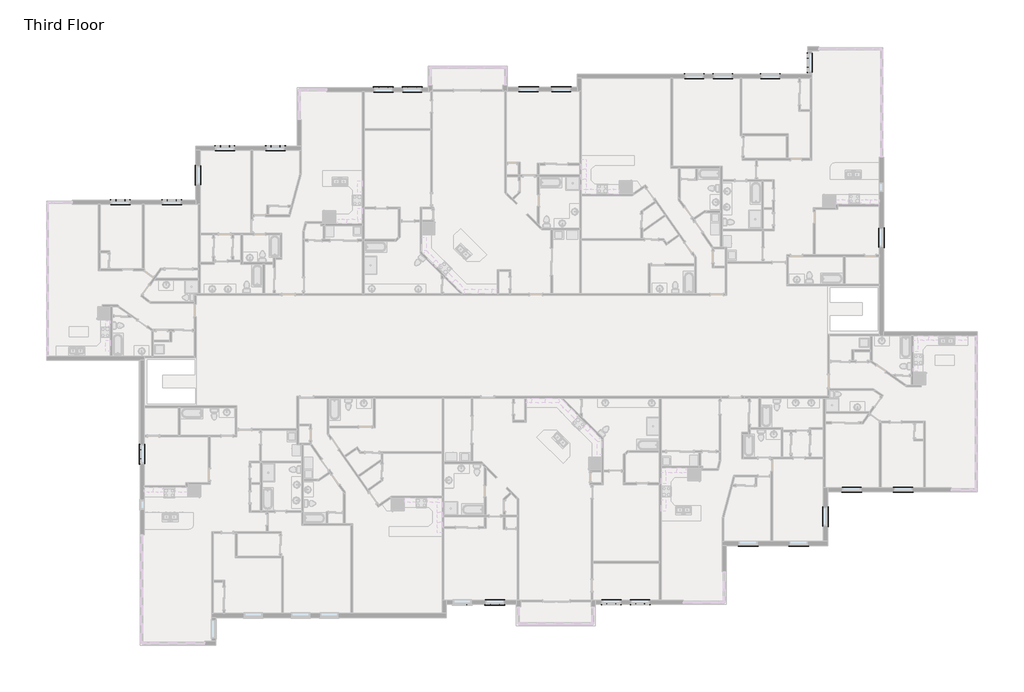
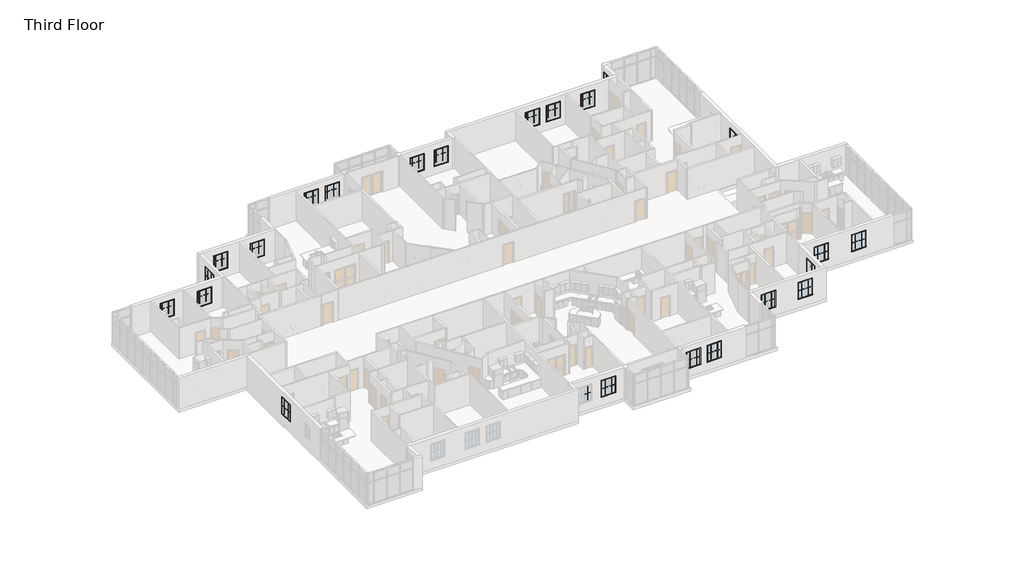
# One storey, part 17 of 17: 93 proxies.
"""IFC4 building model written with IfcOpenShell, lengths in millimetres."""

from ifc_helpers import new_model, si_unit, origin, place, context, project, spatial, transform, mapped, element, save
from components import muntin_pattern_2x2_muntin_pattern_2x2_6dad3731, muntin_pattern_2x2_muntin_pattern_2x2_a30a3345, trim_window_exterior_flat_with_sill_92b9b949, trim_window_interior_flat_picture_frame_3bb882cf

model = new_model("IFC4")

# Units and contexts
model_context = context("Model", 3, world=origin())
ifc_project = project(units=[si_unit("LENGTHUNIT", "METRE", prefix="MILLI")], contexts=[model_context])

# Site, building, storey
site = spatial("IfcSite", under=ifc_project)
building = spatial("IfcBuilding", under=site)
storey = spatial("IfcBuildingStorey", under=building, Name="Third Floor", Elevation=6096.0)

# Proxies
placement = place(None, origin())
muntin_pattern_2x2_muntin_pattern_2x2_shape = muntin_pattern_2x2_muntin_pattern_2x2_6dad3731(model_context)
element("IfcBuildingElementProxy", 1, Name="Muntin Pattern_2x2 : Muntin Pattern_2x2", ObjectType="Muntin Pattern_2x2 : Muntin Pattern_2x2", at=placement, inside=storey, context=model_context, shape_type="MappedRepresentation", body=[
    mapped(muntin_pattern_2x2_muntin_pattern_2x2_shape, transform((57292.8587704, 6466.9511142, 7080.25), x_axis=(0.0, -1.0, 0.0), y_axis=(1.0, 0.0, 0.0), z_axis=(0.0, 0.0, 1.0))),
])
element("IfcBuildingElementProxy", 2, Name="Muntin Pattern_2x2 : Muntin Pattern_2x2", ObjectType="Muntin Pattern_2x2 : Muntin Pattern_2x2", at=placement, inside=storey, context=model_context, shape_type="MappedRepresentation", body=[
    mapped(muntin_pattern_2x2_muntin_pattern_2x2_shape, transform((44168.1303001, 17237.1539258, 7080.25), x_axis=(1.0, 0.0, 0.0), y_axis=(0.0, 1.0, 0.0), z_axis=(0.0, 0.0, 1.0))),
])
element("IfcBuildingElementProxy", 3, Name="Muntin Pattern_2x2 : Muntin Pattern_2x2", ObjectType="Muntin Pattern_2x2 : Muntin Pattern_2x2", at=placement, inside=storey, context=model_context, shape_type="MappedRepresentation", body=[
    mapped(muntin_pattern_2x2_muntin_pattern_2x2_shape, transform((49322.2065151, 17237.1539258, 7080.25), x_axis=(1.0, 0.0, 0.0), y_axis=(0.0, 1.0, 0.0), z_axis=(0.0, 0.0, 1.0))),
])
element("IfcBuildingElementProxy", 4, Name="Muntin Pattern_2x2 : Muntin Pattern_2x2", ObjectType="Muntin Pattern_2x2 : Muntin Pattern_2x2", at=placement, inside=storey, context=model_context, shape_type="MappedRepresentation", body=[
    mapped(muntin_pattern_2x2_muntin_pattern_2x2_shape, transform((5255.9772364, 8703.1052849, 7080.25), x_axis=(1.0, 0.0, 0.0), y_axis=(0.0, 1.0, 0.0), z_axis=(0.0, 0.0, 1.0))),
])
element("IfcBuildingElementProxy", 5, Name="Muntin Pattern_2x2 : Muntin Pattern_2x2", ObjectType="Muntin Pattern_2x2 : Muntin Pattern_2x2", at=placement, inside=storey, context=model_context, shape_type="MappedRepresentation", body=[
    mapped(muntin_pattern_2x2_muntin_pattern_2x2_shape, transform((8741.9706159, 8703.1052849, 7080.25), x_axis=(1.0, 0.0, 0.0), y_axis=(0.0, 1.0, 0.0), z_axis=(0.0, 0.0, 1.0))),
])
element("IfcBuildingElementProxy", 6, Name="Muntin Pattern_2x2 : Muntin Pattern_2x2", ObjectType="Muntin Pattern_2x2 : Muntin Pattern_2x2", at=placement, inside=storey, context=model_context, shape_type="MappedRepresentation", body=[
    mapped(muntin_pattern_2x2_muntin_pattern_2x2_shape, transform((10691.4206159, 10096.9302849, 7080.25), x_axis=(0.0, 1.0, 0.0), y_axis=(-1.0, 0.0, 0.0), z_axis=(0.0, 0.0, 1.0))),
])
element("IfcBuildingElementProxy", 7, Name="Muntin Pattern_2x2 : Muntin Pattern_2x2", ObjectType="Muntin Pattern_2x2 : Muntin Pattern_2x2", at=placement, inside=storey, context=model_context, shape_type="MappedRepresentation", body=[
    mapped(muntin_pattern_2x2_muntin_pattern_2x2_shape, transform((12342.4127788, 12360.7052849, 7080.25), x_axis=(1.0, 0.0, 0.0), y_axis=(0.0, 1.0, 0.0), z_axis=(0.0, 0.0, 1.0))),
])
element("IfcBuildingElementProxy", 8, Name="Muntin Pattern_2x2 : Muntin Pattern_2x2", ObjectType="Muntin Pattern_2x2 : Muntin Pattern_2x2", at=placement, inside=storey, context=model_context, shape_type="MappedRepresentation", body=[
    mapped(muntin_pattern_2x2_muntin_pattern_2x2_shape, transform((15770.2335512, 12360.7052849, 7080.25), x_axis=(1.0, 0.0, 0.0), y_axis=(0.0, 1.0, 0.0), z_axis=(0.0, 0.0, 1.0))),
])
element("IfcBuildingElementProxy", 9, Name="Muntin Pattern_2x2 : Muntin Pattern_2x2", ObjectType="Muntin Pattern_2x2 : Muntin Pattern_2x2", at=placement, inside=storey, context=model_context, shape_type="MappedRepresentation", body=[
    mapped(muntin_pattern_2x2_muntin_pattern_2x2_shape, transform((23091.4448571, 16338.2416823, 7080.25), x_axis=(1.0, 0.0, 0.0), y_axis=(0.0, 1.0, 0.0), z_axis=(0.0, 0.0, 1.0))),
])
element("IfcBuildingElementProxy", 10, Name="Muntin Pattern_2x2 : Muntin Pattern_2x2", ObjectType="Muntin Pattern_2x2 : Muntin Pattern_2x2", at=placement, inside=storey, context=model_context, shape_type="MappedRepresentation", body=[
    mapped(muntin_pattern_2x2_muntin_pattern_2x2_shape, transform((25039.3073571, 16338.2416823, 7080.25), x_axis=(1.0, 0.0, 0.0), y_axis=(0.0, 1.0, 0.0), z_axis=(0.0, 0.0, 1.0))),
])
element("IfcBuildingElementProxy", 11, Name="Muntin Pattern_2x2 : Muntin Pattern_2x2", ObjectType="Muntin Pattern_2x2 : Muntin Pattern_2x2", at=placement, inside=storey, context=model_context, shape_type="MappedRepresentation", body=[
    mapped(muntin_pattern_2x2_muntin_pattern_2x2_shape, transform((32933.4798474, 16350.1365339, 7080.25), x_axis=(1.0, 0.0, 0.0), y_axis=(0.0, 1.0, 0.0), z_axis=(0.0, 0.0, 1.0))),
])
element("IfcBuildingElementProxy", 12, Name="Muntin Pattern_2x2 : Muntin Pattern_2x2", ObjectType="Muntin Pattern_2x2 : Muntin Pattern_2x2", at=placement, inside=storey, context=model_context, shape_type="MappedRepresentation", body=[
    mapped(muntin_pattern_2x2_muntin_pattern_2x2_shape, transform((35152.7178001, 16350.1365339, 7080.25), x_axis=(1.0, 0.0, 0.0), y_axis=(0.0, 1.0, 0.0), z_axis=(0.0, 0.0, 1.0))),
])
element("IfcBuildingElementProxy", 13, Name="Muntin Pattern_2x2 : Muntin Pattern_2x2", ObjectType="Muntin Pattern_2x2 : Muntin Pattern_2x2", at=placement, inside=storey, context=model_context, shape_type="MappedRepresentation", body=[
    mapped(muntin_pattern_2x2_muntin_pattern_2x2_shape, transform((46113.4815143, 17237.1539258, 7080.25), x_axis=(1.0, 0.0, 0.0), y_axis=(0.0, 1.0, 0.0), z_axis=(0.0, 0.0, 1.0))),
])
element("IfcBuildingElementProxy", 14, Name="Muntin Pattern_2x2 : Muntin Pattern_2x2", ObjectType="Muntin Pattern_2x2 : Muntin Pattern_2x2", at=placement, inside=storey, context=model_context, shape_type="MappedRepresentation", body=[
    mapped(muntin_pattern_2x2_muntin_pattern_2x2_shape, transform((52166.5909229, 17728.7417038, 7080.25), x_axis=(0.0, 1.0, 0.0), y_axis=(-1.0, 0.0, 0.0), z_axis=(0.0, 0.0, 1.0))),
])
element("IfcBuildingElementProxy", 15, Name="Muntin Pattern_2x2 : Muntin Pattern_2x2", ObjectType="Muntin Pattern_2x2 : Muntin Pattern_2x2", at=placement, inside=storey, context=model_context, shape_type="MappedRepresentation", body=[
    mapped(muntin_pattern_2x2_muntin_pattern_2x2_shape, transform((6897.2956159, -8816.1337391, 7080.25), x_axis=(0.0, 1.0, 0.0), y_axis=(-1.0, 0.0, 0.0), z_axis=(0.0, 0.0, 1.0))),
])
element("IfcBuildingElementProxy", 16, Name="Muntin Pattern_2x2 : Muntin Pattern_2x2", ObjectType="Muntin Pattern_2x2 : Muntin Pattern_2x2", at=placement, inside=storey, context=model_context, shape_type="MappedRepresentation", body=[
    mapped(muntin_pattern_2x2_muntin_pattern_2x2_shape, transform((58934.1771499, -11052.2879097, 7080.25), x_axis=(-1.0, 0.0, 0.0), y_axis=(0.0, -1.0, 0.0), z_axis=(0.0, 0.0, 1.0))),
])
element("IfcBuildingElementProxy", 17, Name="Muntin Pattern_2x2 : Muntin Pattern_2x2", ObjectType="Muntin Pattern_2x2 : Muntin Pattern_2x2", at=placement, inside=storey, context=model_context, shape_type="MappedRepresentation", body=[
    mapped(muntin_pattern_2x2_muntin_pattern_2x2_shape, transform((55448.1837704, -11052.2879097, 7080.25), x_axis=(-1.0, 0.0, 0.0), y_axis=(0.0, -1.0, 0.0), z_axis=(0.0, 0.0, 1.0))),
])
element("IfcBuildingElementProxy", 18, Name="Muntin Pattern_2x2 : Muntin Pattern_2x2", ObjectType="Muntin Pattern_2x2 : Muntin Pattern_2x2", at=placement, inside=storey, context=model_context, shape_type="MappedRepresentation", body=[
    mapped(muntin_pattern_2x2_muntin_pattern_2x2_shape, transform((53498.7337704, -12446.1129097, 7080.25), x_axis=(0.0, -1.0, 0.0), y_axis=(1.0, 0.0, 0.0), z_axis=(0.0, 0.0, 1.0))),
])
element("IfcBuildingElementProxy", 19, Name="Muntin Pattern_2x2 : Muntin Pattern_2x2", ObjectType="Muntin Pattern_2x2 : Muntin Pattern_2x2", at=placement, inside=storey, context=model_context, shape_type="MappedRepresentation", body=[
    mapped(muntin_pattern_2x2_muntin_pattern_2x2_shape, transform((51847.7416075, -14709.8879097, 7080.25), x_axis=(-1.0, 0.0, 0.0), y_axis=(0.0, -1.0, 0.0), z_axis=(0.0, 0.0, 1.0))),
])
element("IfcBuildingElementProxy", 20, Name="Muntin Pattern_2x2 : Muntin Pattern_2x2", ObjectType="Muntin Pattern_2x2 : Muntin Pattern_2x2", at=placement, inside=storey, context=model_context, shape_type="MappedRepresentation", body=[
    mapped(muntin_pattern_2x2_muntin_pattern_2x2_shape, transform((48419.9208351, -14709.8879097, 7080.25), x_axis=(-1.0, 0.0, 0.0), y_axis=(0.0, -1.0, 0.0), z_axis=(0.0, 0.0, 1.0))),
])
element("IfcBuildingElementProxy", 21, Name="Muntin Pattern_2x2 : Muntin Pattern_2x2", ObjectType="Muntin Pattern_2x2 : Muntin Pattern_2x2", at=placement, inside=storey, context=model_context, shape_type="MappedRepresentation", body=[
    mapped(muntin_pattern_2x2_muntin_pattern_2x2_shape, transform((41098.7095292, -18687.4243072, 7080.25), x_axis=(-1.0, 0.0, 0.0), y_axis=(0.0, -1.0, 0.0), z_axis=(0.0, 0.0, 1.0))),
])
element("IfcBuildingElementProxy", 22, Name="Muntin Pattern_2x2 : Muntin Pattern_2x2", ObjectType="Muntin Pattern_2x2 : Muntin Pattern_2x2", at=placement, inside=storey, context=model_context, shape_type="MappedRepresentation", body=[
    mapped(muntin_pattern_2x2_muntin_pattern_2x2_shape, transform((39150.8470292, -18687.4243072, 7080.25), x_axis=(-1.0, 0.0, 0.0), y_axis=(0.0, -1.0, 0.0), z_axis=(0.0, 0.0, 1.0))),
])
element("IfcBuildingElementProxy", 23, Name="Muntin Pattern_2x2 : Muntin Pattern_2x2", ObjectType="Muntin Pattern_2x2 : Muntin Pattern_2x2", at=placement, inside=storey, context=model_context, shape_type="MappedRepresentation", body=[
    mapped(muntin_pattern_2x2_muntin_pattern_2x2_shape, transform((31256.6745389, -18699.3191587, 7080.25), x_axis=(-1.0, 0.0, 0.0), y_axis=(0.0, -1.0, 0.0), z_axis=(0.0, 0.0, 1.0))),
])
element("IfcBuildingElementProxy", 24, Name="Muntin Pattern_2x2 : Muntin Pattern_2x2", ObjectType="Muntin Pattern_2x2 : Muntin Pattern_2x2", at=placement, inside=storey, context=model_context, shape_type="MappedRepresentation", body=[
    mapped(muntin_pattern_2x2_muntin_pattern_2x2_shape, transform((29037.4365862, -18699.3191587, 7080.25), x_axis=(-1.0, 0.0, 0.0), y_axis=(0.0, -1.0, 0.0), z_axis=(0.0, 0.0, 1.0))),
])
muntin_pattern_2x2_muntin_pattern_2x2_2_shape = muntin_pattern_2x2_muntin_pattern_2x2_a30a3345(model_context)
element("IfcBuildingElementProxy", 25, Name="Muntin Pattern_2x2 : Muntin Pattern_2x2", ObjectType="Muntin Pattern_2x2 : Muntin Pattern_2x2", at=placement, inside=storey, context=model_context, shape_type="MappedRepresentation", body=[
    mapped(muntin_pattern_2x2_muntin_pattern_2x2_2_shape, transform((57292.8587704, 5860.5261142, 7080.25), x_axis=(0.0, 1.0, 0.0), y_axis=(-1.0, 0.0, 0.0), z_axis=(0.0, 0.0, 1.0))),
])
element("IfcBuildingElementProxy", 26, Name="Muntin Pattern_2x2 : Muntin Pattern_2x2", ObjectType="Muntin Pattern_2x2 : Muntin Pattern_2x2", at=placement, inside=storey, context=model_context, shape_type="MappedRepresentation", body=[
    mapped(muntin_pattern_2x2_muntin_pattern_2x2_2_shape, transform((44774.5553001, 17237.1539258, 7080.25), x_axis=(-1.0, 0.0, 0.0), y_axis=(0.0, -1.0, 0.0), z_axis=(0.0, 0.0, 1.0))),
])
element("IfcBuildingElementProxy", 27, Name="Muntin Pattern_2x2 : Muntin Pattern_2x2", ObjectType="Muntin Pattern_2x2 : Muntin Pattern_2x2", at=placement, inside=storey, context=model_context, shape_type="MappedRepresentation", body=[
    mapped(muntin_pattern_2x2_muntin_pattern_2x2_2_shape, transform((49928.6315151, 17237.1539258, 7080.25), x_axis=(-1.0, 0.0, 0.0), y_axis=(0.0, -1.0, 0.0), z_axis=(0.0, 0.0, 1.0))),
])
element("IfcBuildingElementProxy", 28, Name="Muntin Pattern_2x2 : Muntin Pattern_2x2", ObjectType="Muntin Pattern_2x2 : Muntin Pattern_2x2", at=placement, inside=storey, context=model_context, shape_type="MappedRepresentation", body=[
    mapped(muntin_pattern_2x2_muntin_pattern_2x2_2_shape, transform((5862.4022364, 8703.1052849, 7080.25), x_axis=(-1.0, 0.0, 0.0), y_axis=(0.0, -1.0, 0.0), z_axis=(0.0, 0.0, 1.0))),
])
element("IfcBuildingElementProxy", 29, Name="Muntin Pattern_2x2 : Muntin Pattern_2x2", ObjectType="Muntin Pattern_2x2 : Muntin Pattern_2x2", at=placement, inside=storey, context=model_context, shape_type="MappedRepresentation", body=[
    mapped(muntin_pattern_2x2_muntin_pattern_2x2_2_shape, transform((9348.3956159, 8703.1052849, 7080.25), x_axis=(-1.0, 0.0, 0.0), y_axis=(0.0, -1.0, 0.0), z_axis=(0.0, 0.0, 1.0))),
])
element("IfcBuildingElementProxy", 30, Name="Muntin Pattern_2x2 : Muntin Pattern_2x2", ObjectType="Muntin Pattern_2x2 : Muntin Pattern_2x2", at=placement, inside=storey, context=model_context, shape_type="MappedRepresentation", body=[
    mapped(muntin_pattern_2x2_muntin_pattern_2x2_2_shape, transform((10691.4206159, 10703.3552849, 7080.25), x_axis=(0.0, -1.0, 0.0), y_axis=(1.0, 0.0, 0.0), z_axis=(0.0, 0.0, 1.0))),
])
element("IfcBuildingElementProxy", 31, Name="Muntin Pattern_2x2 : Muntin Pattern_2x2", ObjectType="Muntin Pattern_2x2 : Muntin Pattern_2x2", at=placement, inside=storey, context=model_context, shape_type="MappedRepresentation", body=[
    mapped(muntin_pattern_2x2_muntin_pattern_2x2_2_shape, transform((12948.8377788, 12360.7052849, 7080.25), x_axis=(-1.0, 0.0, 0.0), y_axis=(0.0, -1.0, 0.0), z_axis=(0.0, 0.0, 1.0))),
])
element("IfcBuildingElementProxy", 32, Name="Muntin Pattern_2x2 : Muntin Pattern_2x2", ObjectType="Muntin Pattern_2x2 : Muntin Pattern_2x2", at=placement, inside=storey, context=model_context, shape_type="MappedRepresentation", body=[
    mapped(muntin_pattern_2x2_muntin_pattern_2x2_2_shape, transform((16376.6585512, 12360.7052849, 7080.25), x_axis=(-1.0, 0.0, 0.0), y_axis=(0.0, -1.0, 0.0), z_axis=(0.0, 0.0, 1.0))),
])
element("IfcBuildingElementProxy", 33, Name="Muntin Pattern_2x2 : Muntin Pattern_2x2", ObjectType="Muntin Pattern_2x2 : Muntin Pattern_2x2", at=placement, inside=storey, context=model_context, shape_type="MappedRepresentation", body=[
    mapped(muntin_pattern_2x2_muntin_pattern_2x2_2_shape, transform((23697.8698571, 16338.2416823, 7080.25), x_axis=(-1.0, 0.0, 0.0), y_axis=(0.0, -1.0, 0.0), z_axis=(0.0, 0.0, 1.0))),
])
element("IfcBuildingElementProxy", 34, Name="Muntin Pattern_2x2 : Muntin Pattern_2x2", ObjectType="Muntin Pattern_2x2 : Muntin Pattern_2x2", at=placement, inside=storey, context=model_context, shape_type="MappedRepresentation", body=[
    mapped(muntin_pattern_2x2_muntin_pattern_2x2_2_shape, transform((25645.7323571, 16338.2416823, 7080.25), x_axis=(-1.0, 0.0, 0.0), y_axis=(0.0, -1.0, 0.0), z_axis=(0.0, 0.0, 1.0))),
])
element("IfcBuildingElementProxy", 35, Name="Muntin Pattern_2x2 : Muntin Pattern_2x2", ObjectType="Muntin Pattern_2x2 : Muntin Pattern_2x2", at=placement, inside=storey, context=model_context, shape_type="MappedRepresentation", body=[
    mapped(muntin_pattern_2x2_muntin_pattern_2x2_2_shape, transform((33539.9048474, 16350.1365339, 7080.25), x_axis=(-1.0, 0.0, 0.0), y_axis=(0.0, -1.0, 0.0), z_axis=(0.0, 0.0, 1.0))),
])
element("IfcBuildingElementProxy", 36, Name="Muntin Pattern_2x2 : Muntin Pattern_2x2", ObjectType="Muntin Pattern_2x2 : Muntin Pattern_2x2", at=placement, inside=storey, context=model_context, shape_type="MappedRepresentation", body=[
    mapped(muntin_pattern_2x2_muntin_pattern_2x2_2_shape, transform((35759.1428001, 16350.1365339, 7080.25), x_axis=(-1.0, 0.0, 0.0), y_axis=(0.0, -1.0, 0.0), z_axis=(0.0, 0.0, 1.0))),
])
element("IfcBuildingElementProxy", 37, Name="Muntin Pattern_2x2 : Muntin Pattern_2x2", ObjectType="Muntin Pattern_2x2 : Muntin Pattern_2x2", at=placement, inside=storey, context=model_context, shape_type="MappedRepresentation", body=[
    mapped(muntin_pattern_2x2_muntin_pattern_2x2_2_shape, transform((46719.9065143, 17237.1539258, 7080.25), x_axis=(-1.0, 0.0, 0.0), y_axis=(0.0, -1.0, 0.0), z_axis=(0.0, 0.0, 1.0))),
])
element("IfcBuildingElementProxy", 38, Name="Muntin Pattern_2x2 : Muntin Pattern_2x2", ObjectType="Muntin Pattern_2x2 : Muntin Pattern_2x2", at=placement, inside=storey, context=model_context, shape_type="MappedRepresentation", body=[
    mapped(muntin_pattern_2x2_muntin_pattern_2x2_2_shape, transform((52166.5909229, 18335.1667038, 7080.25), x_axis=(0.0, -1.0, 0.0), y_axis=(1.0, 0.0, 0.0), z_axis=(0.0, 0.0, 1.0))),
])
element("IfcBuildingElementProxy", 39, Name="Muntin Pattern_2x2 : Muntin Pattern_2x2", ObjectType="Muntin Pattern_2x2 : Muntin Pattern_2x2", at=placement, inside=storey, context=model_context, shape_type="MappedRepresentation", body=[
    mapped(muntin_pattern_2x2_muntin_pattern_2x2_2_shape, transform((6897.2956159, -8209.7087391, 7080.25), x_axis=(0.0, -1.0, 0.0), y_axis=(1.0, 0.0, 0.0), z_axis=(0.0, 0.0, 1.0))),
])
element("IfcBuildingElementProxy", 40, Name="Muntin Pattern_2x2 : Muntin Pattern_2x2", ObjectType="Muntin Pattern_2x2 : Muntin Pattern_2x2", at=placement, inside=storey, context=model_context, shape_type="MappedRepresentation", body=[
    mapped(muntin_pattern_2x2_muntin_pattern_2x2_2_shape, transform((58327.7521499, -11052.2879097, 7080.25), x_axis=(1.0, 0.0, 0.0), y_axis=(0.0, 1.0, 0.0), z_axis=(0.0, 0.0, 1.0))),
])
element("IfcBuildingElementProxy", 41, Name="Muntin Pattern_2x2 : Muntin Pattern_2x2", ObjectType="Muntin Pattern_2x2 : Muntin Pattern_2x2", at=placement, inside=storey, context=model_context, shape_type="MappedRepresentation", body=[
    mapped(muntin_pattern_2x2_muntin_pattern_2x2_2_shape, transform((54841.7587704, -11052.2879097, 7080.25), x_axis=(1.0, 0.0, 0.0), y_axis=(0.0, 1.0, 0.0), z_axis=(0.0, 0.0, 1.0))),
])
element("IfcBuildingElementProxy", 42, Name="Muntin Pattern_2x2 : Muntin Pattern_2x2", ObjectType="Muntin Pattern_2x2 : Muntin Pattern_2x2", at=placement, inside=storey, context=model_context, shape_type="MappedRepresentation", body=[
    mapped(muntin_pattern_2x2_muntin_pattern_2x2_2_shape, transform((53498.7337704, -13052.5379097, 7080.25), x_axis=(0.0, 1.0, 0.0), y_axis=(-1.0, 0.0, 0.0), z_axis=(0.0, 0.0, 1.0))),
])
element("IfcBuildingElementProxy", 43, Name="Muntin Pattern_2x2 : Muntin Pattern_2x2", ObjectType="Muntin Pattern_2x2 : Muntin Pattern_2x2", at=placement, inside=storey, context=model_context, shape_type="MappedRepresentation", body=[
    mapped(muntin_pattern_2x2_muntin_pattern_2x2_2_shape, transform((51241.3166075, -14709.8879097, 7080.25), x_axis=(1.0, 0.0, 0.0), y_axis=(0.0, 1.0, 0.0), z_axis=(0.0, 0.0, 1.0))),
])
element("IfcBuildingElementProxy", 44, Name="Muntin Pattern_2x2 : Muntin Pattern_2x2", ObjectType="Muntin Pattern_2x2 : Muntin Pattern_2x2", at=placement, inside=storey, context=model_context, shape_type="MappedRepresentation", body=[
    mapped(muntin_pattern_2x2_muntin_pattern_2x2_2_shape, transform((47813.4958351, -14709.8879097, 7080.25), x_axis=(1.0, 0.0, 0.0), y_axis=(0.0, 1.0, 0.0), z_axis=(0.0, 0.0, 1.0))),
])
element("IfcBuildingElementProxy", 45, Name="Muntin Pattern_2x2 : Muntin Pattern_2x2", ObjectType="Muntin Pattern_2x2 : Muntin Pattern_2x2", at=placement, inside=storey, context=model_context, shape_type="MappedRepresentation", body=[
    mapped(muntin_pattern_2x2_muntin_pattern_2x2_2_shape, transform((40492.2845292, -18687.4243072, 7080.25), x_axis=(1.0, 0.0, 0.0), y_axis=(0.0, 1.0, 0.0), z_axis=(0.0, 0.0, 1.0))),
])
element("IfcBuildingElementProxy", 46, Name="Muntin Pattern_2x2 : Muntin Pattern_2x2", ObjectType="Muntin Pattern_2x2 : Muntin Pattern_2x2", at=placement, inside=storey, context=model_context, shape_type="MappedRepresentation", body=[
    mapped(muntin_pattern_2x2_muntin_pattern_2x2_2_shape, transform((38544.4220292, -18687.4243072, 7080.25), x_axis=(1.0, 0.0, 0.0), y_axis=(0.0, 1.0, 0.0), z_axis=(0.0, 0.0, 1.0))),
])
element("IfcBuildingElementProxy", 47, Name="Muntin Pattern_2x2 : Muntin Pattern_2x2", ObjectType="Muntin Pattern_2x2 : Muntin Pattern_2x2", at=placement, inside=storey, context=model_context, shape_type="MappedRepresentation", body=[
    mapped(muntin_pattern_2x2_muntin_pattern_2x2_2_shape, transform((30650.2495389, -18699.3191587, 7080.25), x_axis=(1.0, 0.0, 0.0), y_axis=(0.0, 1.0, 0.0), z_axis=(0.0, 0.0, 1.0))),
])
trim_window_exterior_flat_with_sill_shape = trim_window_exterior_flat_with_sill_92b9b949(model_context)
element("IfcBuildingElementProxy", 48, Name="Trim-Window-Exterior-Flat : with Sill", ObjectType="Trim-Window-Exterior-Flat : with Sill", at=placement, inside=storey, context=model_context, shape_type="MappedRepresentation", body=[
    mapped(trim_window_exterior_flat_with_sill_shape, transform((57302.3837704, 6163.7386142, 8534.4), x_axis=(0.0, 1.0, 0.0), y_axis=(0.0, 0.0, 1.0), z_axis=(1.0, 0.0, 0.0))),
])
element("IfcBuildingElementProxy", 49, Name="Trim-Window-Exterior-Flat : with Sill", ObjectType="Trim-Window-Exterior-Flat : with Sill", at=placement, inside=storey, context=model_context, shape_type="MappedRepresentation", body=[
    mapped(trim_window_exterior_flat_with_sill_shape, transform((44471.3428001, 17246.6789258, 8534.4), x_axis=(-1.0, 0.0, 0.0), y_axis=(0.0, 0.0, 1.0), z_axis=(0.0, 1.0, 0.0))),
])
element("IfcBuildingElementProxy", 50, Name="Trim-Window-Exterior-Flat : with Sill", ObjectType="Trim-Window-Exterior-Flat : with Sill", at=placement, inside=storey, context=model_context, shape_type="MappedRepresentation", body=[
    mapped(trim_window_exterior_flat_with_sill_shape, transform((49625.4190151, 17246.6789258, 8534.4), x_axis=(-1.0, 0.0, 0.0), y_axis=(0.0, 0.0, 1.0), z_axis=(0.0, 1.0, 0.0))),
])
element("IfcBuildingElementProxy", 51, Name="Trim-Window-Exterior-Flat : with Sill", ObjectType="Trim-Window-Exterior-Flat : with Sill", at=placement, inside=storey, context=model_context, shape_type="MappedRepresentation", body=[
    mapped(trim_window_exterior_flat_with_sill_shape, transform((5559.1897364, 8712.6302849, 8534.4), x_axis=(-1.0, 0.0, 0.0), y_axis=(0.0, 0.0, 1.0), z_axis=(0.0, 1.0, 0.0))),
])
element("IfcBuildingElementProxy", 52, Name="Trim-Window-Exterior-Flat : with Sill", ObjectType="Trim-Window-Exterior-Flat : with Sill", at=placement, inside=storey, context=model_context, shape_type="MappedRepresentation", body=[
    mapped(trim_window_exterior_flat_with_sill_shape, transform((9045.1831159, 8712.6302849, 8534.4), x_axis=(-1.0, 0.0, 0.0), y_axis=(0.0, 0.0, 1.0), z_axis=(0.0, 1.0, 0.0))),
])
element("IfcBuildingElementProxy", 53, Name="Trim-Window-Exterior-Flat : with Sill", ObjectType="Trim-Window-Exterior-Flat : with Sill", at=placement, inside=storey, context=model_context, shape_type="MappedRepresentation", body=[
    mapped(trim_window_exterior_flat_with_sill_shape, transform((10681.8956159, 10400.1427849, 8534.4), x_axis=(0.0, -1.0, 0.0), y_axis=(0.0, 0.0, 1.0), z_axis=(-1.0, 0.0, 0.0))),
])
element("IfcBuildingElementProxy", 54, Name="Trim-Window-Exterior-Flat : with Sill", ObjectType="Trim-Window-Exterior-Flat : with Sill", at=placement, inside=storey, context=model_context, shape_type="MappedRepresentation", body=[
    mapped(trim_window_exterior_flat_with_sill_shape, transform((12645.6252788, 12370.2302849, 8534.4), x_axis=(-1.0, 0.0, 0.0), y_axis=(0.0, 0.0, 1.0), z_axis=(0.0, 1.0, 0.0))),
])
element("IfcBuildingElementProxy", 55, Name="Trim-Window-Exterior-Flat : with Sill", ObjectType="Trim-Window-Exterior-Flat : with Sill", at=placement, inside=storey, context=model_context, shape_type="MappedRepresentation", body=[
    mapped(trim_window_exterior_flat_with_sill_shape, transform((16073.4460512, 12370.2302849, 8534.4), x_axis=(-1.0, 0.0, 0.0), y_axis=(0.0, 0.0, 1.0), z_axis=(0.0, 1.0, 0.0))),
])
element("IfcBuildingElementProxy", 56, Name="Trim-Window-Exterior-Flat : with Sill", ObjectType="Trim-Window-Exterior-Flat : with Sill", at=placement, inside=storey, context=model_context, shape_type="MappedRepresentation", body=[
    mapped(trim_window_exterior_flat_with_sill_shape, transform((23394.6573571, 16347.7666823, 8534.4), x_axis=(-1.0, 0.0, 0.0), y_axis=(0.0, 0.0, 1.0), z_axis=(0.0, 1.0, 0.0))),
])
element("IfcBuildingElementProxy", 57, Name="Trim-Window-Exterior-Flat : with Sill", ObjectType="Trim-Window-Exterior-Flat : with Sill", at=placement, inside=storey, context=model_context, shape_type="MappedRepresentation", body=[
    mapped(trim_window_exterior_flat_with_sill_shape, transform((25342.5198571, 16347.7666823, 8534.4), x_axis=(-1.0, 0.0, 0.0), y_axis=(0.0, 0.0, 1.0), z_axis=(0.0, 1.0, 0.0))),
])
element("IfcBuildingElementProxy", 58, Name="Trim-Window-Exterior-Flat : with Sill", ObjectType="Trim-Window-Exterior-Flat : with Sill", at=placement, inside=storey, context=model_context, shape_type="MappedRepresentation", body=[
    mapped(trim_window_exterior_flat_with_sill_shape, transform((33236.6923474, 16359.6615339, 8534.4), x_axis=(-1.0, 0.0, 0.0), y_axis=(0.0, 0.0, 1.0), z_axis=(0.0, 1.0, 0.0))),
])
element("IfcBuildingElementProxy", 59, Name="Trim-Window-Exterior-Flat : with Sill", ObjectType="Trim-Window-Exterior-Flat : with Sill", at=placement, inside=storey, context=model_context, shape_type="MappedRepresentation", body=[
    mapped(trim_window_exterior_flat_with_sill_shape, transform((35455.9303001, 16359.6615339, 8534.4), x_axis=(-1.0, 0.0, 0.0), y_axis=(0.0, 0.0, 1.0), z_axis=(0.0, 1.0, 0.0))),
])
element("IfcBuildingElementProxy", 60, Name="Trim-Window-Exterior-Flat : with Sill", ObjectType="Trim-Window-Exterior-Flat : with Sill", at=placement, inside=storey, context=model_context, shape_type="MappedRepresentation", body=[
    mapped(trim_window_exterior_flat_with_sill_shape, transform((46416.6940143, 17246.6789258, 8534.4), x_axis=(-1.0, 0.0, 0.0), y_axis=(0.0, 0.0, 1.0), z_axis=(0.0, 1.0, 0.0))),
])
element("IfcBuildingElementProxy", 61, Name="Trim-Window-Exterior-Flat : with Sill", ObjectType="Trim-Window-Exterior-Flat : with Sill", at=placement, inside=storey, context=model_context, shape_type="MappedRepresentation", body=[
    mapped(trim_window_exterior_flat_with_sill_shape, transform((52157.0659229, 18031.9542038, 8534.4), x_axis=(0.0, -1.0, 0.0), y_axis=(0.0, 0.0, 1.0), z_axis=(-1.0, 0.0, 0.0))),
])
element("IfcBuildingElementProxy", 62, Name="Trim-Window-Exterior-Flat : with Sill", ObjectType="Trim-Window-Exterior-Flat : with Sill", at=placement, inside=storey, context=model_context, shape_type="MappedRepresentation", body=[
    mapped(trim_window_exterior_flat_with_sill_shape, transform((6887.7706159, -8512.9212391, 8534.4), x_axis=(0.0, -1.0, 0.0), y_axis=(0.0, 0.0, 1.0), z_axis=(-1.0, 0.0, 0.0))),
])
element("IfcBuildingElementProxy", 63, Name="Trim-Window-Exterior-Flat : with Sill", ObjectType="Trim-Window-Exterior-Flat : with Sill", at=placement, inside=storey, context=model_context, shape_type="MappedRepresentation", body=[
    mapped(trim_window_exterior_flat_with_sill_shape, transform((58630.9646499, -11061.8129097, 8534.4), x_axis=(1.0, 0.0, 0.0), y_axis=(0.0, 0.0, 1.0), z_axis=(0.0, -1.0, 0.0))),
])
element("IfcBuildingElementProxy", 64, Name="Trim-Window-Exterior-Flat : with Sill", ObjectType="Trim-Window-Exterior-Flat : with Sill", at=placement, inside=storey, context=model_context, shape_type="MappedRepresentation", body=[
    mapped(trim_window_exterior_flat_with_sill_shape, transform((55144.9712704, -11061.8129097, 8534.4), x_axis=(1.0, 0.0, 0.0), y_axis=(0.0, 0.0, 1.0), z_axis=(0.0, -1.0, 0.0))),
])
element("IfcBuildingElementProxy", 65, Name="Trim-Window-Exterior-Flat : with Sill", ObjectType="Trim-Window-Exterior-Flat : with Sill", at=placement, inside=storey, context=model_context, shape_type="MappedRepresentation", body=[
    mapped(trim_window_exterior_flat_with_sill_shape, transform((53508.2587704, -12749.3254097, 8534.4), x_axis=(0.0, 1.0, 0.0), y_axis=(0.0, 0.0, 1.0), z_axis=(1.0, 0.0, 0.0))),
])
element("IfcBuildingElementProxy", 66, Name="Trim-Window-Exterior-Flat : with Sill", ObjectType="Trim-Window-Exterior-Flat : with Sill", at=placement, inside=storey, context=model_context, shape_type="MappedRepresentation", body=[
    mapped(trim_window_exterior_flat_with_sill_shape, transform((51544.5291075, -14719.4129097, 8534.4), x_axis=(1.0, 0.0, 0.0), y_axis=(0.0, 0.0, 1.0), z_axis=(0.0, -1.0, 0.0))),
])
element("IfcBuildingElementProxy", 67, Name="Trim-Window-Exterior-Flat : with Sill", ObjectType="Trim-Window-Exterior-Flat : with Sill", at=placement, inside=storey, context=model_context, shape_type="MappedRepresentation", body=[
    mapped(trim_window_exterior_flat_with_sill_shape, transform((48116.7083351, -14719.4129097, 8534.4), x_axis=(1.0, 0.0, 0.0), y_axis=(0.0, 0.0, 1.0), z_axis=(0.0, -1.0, 0.0))),
])
element("IfcBuildingElementProxy", 68, Name="Trim-Window-Exterior-Flat : with Sill", ObjectType="Trim-Window-Exterior-Flat : with Sill", at=placement, inside=storey, context=model_context, shape_type="MappedRepresentation", body=[
    mapped(trim_window_exterior_flat_with_sill_shape, transform((40795.4970292, -18696.9493072, 8534.4), x_axis=(1.0, 0.0, 0.0), y_axis=(0.0, 0.0, 1.0), z_axis=(0.0, -1.0, 0.0))),
])
element("IfcBuildingElementProxy", 69, Name="Trim-Window-Exterior-Flat : with Sill", ObjectType="Trim-Window-Exterior-Flat : with Sill", at=placement, inside=storey, context=model_context, shape_type="MappedRepresentation", body=[
    mapped(trim_window_exterior_flat_with_sill_shape, transform((38847.6345292, -18696.9493072, 8534.4), x_axis=(1.0, 0.0, 0.0), y_axis=(0.0, 0.0, 1.0), z_axis=(0.0, -1.0, 0.0))),
])
element("IfcBuildingElementProxy", 70, Name="Trim-Window-Exterior-Flat : with Sill", ObjectType="Trim-Window-Exterior-Flat : with Sill", at=placement, inside=storey, context=model_context, shape_type="MappedRepresentation", body=[
    mapped(trim_window_exterior_flat_with_sill_shape, transform((30953.4620389, -18708.8441587, 8534.4), x_axis=(1.0, 0.0, 0.0), y_axis=(0.0, 0.0, 1.0), z_axis=(0.0, -1.0, 0.0))),
])
trim_window_interior_flat_picture_frame_shape = trim_window_interior_flat_picture_frame_3bb882cf(model_context)
element("IfcBuildingElementProxy", 71, Name="Trim-Window-Interior-Flat : Picture Frame", ObjectType="Trim-Window-Interior-Flat : Picture Frame", at=placement, inside=storey, context=model_context, shape_type="MappedRepresentation", body=[
    mapped(trim_window_interior_flat_picture_frame_shape, transform((57019.8087704, 6163.7386142, 8534.4), x_axis=(0.0, -1.0, 0.0), y_axis=(0.0, 0.0, 1.0), z_axis=(-1.0, 0.0, 0.0))),
])
element("IfcBuildingElementProxy", 72, Name="Trim-Window-Interior-Flat : Picture Frame", ObjectType="Trim-Window-Interior-Flat : Picture Frame", at=placement, inside=storey, context=model_context, shape_type="MappedRepresentation", body=[
    mapped(trim_window_interior_flat_picture_frame_shape, transform((44471.3428001, 16964.1039258, 8534.4), x_axis=(1.0, 0.0, 0.0), y_axis=(0.0, 0.0, 1.0), z_axis=(0.0, -1.0, 0.0))),
])
element("IfcBuildingElementProxy", 73, Name="Trim-Window-Interior-Flat : Picture Frame", ObjectType="Trim-Window-Interior-Flat : Picture Frame", at=placement, inside=storey, context=model_context, shape_type="MappedRepresentation", body=[
    mapped(trim_window_interior_flat_picture_frame_shape, transform((49625.4190151, 16964.1039258, 8534.4), x_axis=(1.0, 0.0, 0.0), y_axis=(0.0, 0.0, 1.0), z_axis=(0.0, -1.0, 0.0))),
])
element("IfcBuildingElementProxy", 74, Name="Trim-Window-Interior-Flat : Picture Frame", ObjectType="Trim-Window-Interior-Flat : Picture Frame", at=placement, inside=storey, context=model_context, shape_type="MappedRepresentation", body=[
    mapped(trim_window_interior_flat_picture_frame_shape, transform((5559.1897364, 8430.0552849, 8534.4), x_axis=(1.0, 0.0, 0.0), y_axis=(0.0, 0.0, 1.0), z_axis=(0.0, -1.0, 0.0))),
])
element("IfcBuildingElementProxy", 75, Name="Trim-Window-Interior-Flat : Picture Frame", ObjectType="Trim-Window-Interior-Flat : Picture Frame", at=placement, inside=storey, context=model_context, shape_type="MappedRepresentation", body=[
    mapped(trim_window_interior_flat_picture_frame_shape, transform((9045.1831159, 8430.0552849, 8534.4), x_axis=(1.0, 0.0, 0.0), y_axis=(0.0, 0.0, 1.0), z_axis=(0.0, -1.0, 0.0))),
])
element("IfcBuildingElementProxy", 76, Name="Trim-Window-Interior-Flat : Picture Frame", ObjectType="Trim-Window-Interior-Flat : Picture Frame", at=placement, inside=storey, context=model_context, shape_type="MappedRepresentation", body=[
    mapped(trim_window_interior_flat_picture_frame_shape, transform((10964.4706159, 10400.1427849, 8534.4), x_axis=(0.0, 1.0, 0.0), y_axis=(0.0, 0.0, 1.0), z_axis=(1.0, 0.0, 0.0))),
])
element("IfcBuildingElementProxy", 77, Name="Trim-Window-Interior-Flat : Picture Frame", ObjectType="Trim-Window-Interior-Flat : Picture Frame", at=placement, inside=storey, context=model_context, shape_type="MappedRepresentation", body=[
    mapped(trim_window_interior_flat_picture_frame_shape, transform((12645.6252788, 12087.6552849, 8534.4), x_axis=(1.0, 0.0, 0.0), y_axis=(0.0, 0.0, 1.0), z_axis=(0.0, -1.0, 0.0))),
])
element("IfcBuildingElementProxy", 78, Name="Trim-Window-Interior-Flat : Picture Frame", ObjectType="Trim-Window-Interior-Flat : Picture Frame", at=placement, inside=storey, context=model_context, shape_type="MappedRepresentation", body=[
    mapped(trim_window_interior_flat_picture_frame_shape, transform((16073.4460512, 12087.6552849, 8534.4), x_axis=(1.0, 0.0, 0.0), y_axis=(0.0, 0.0, 1.0), z_axis=(0.0, -1.0, 0.0))),
])
element("IfcBuildingElementProxy", 79, Name="Trim-Window-Interior-Flat : Picture Frame", ObjectType="Trim-Window-Interior-Flat : Picture Frame", at=placement, inside=storey, context=model_context, shape_type="MappedRepresentation", body=[
    mapped(trim_window_interior_flat_picture_frame_shape, transform((23394.6573571, 16065.1916823, 8534.4), x_axis=(1.0, 0.0, 0.0), y_axis=(0.0, 0.0, 1.0), z_axis=(0.0, -1.0, 0.0))),
])
element("IfcBuildingElementProxy", 80, Name="Trim-Window-Interior-Flat : Picture Frame", ObjectType="Trim-Window-Interior-Flat : Picture Frame", at=placement, inside=storey, context=model_context, shape_type="MappedRepresentation", body=[
    mapped(trim_window_interior_flat_picture_frame_shape, transform((25342.5198571, 16065.1916823, 8534.4), x_axis=(1.0, 0.0, 0.0), y_axis=(0.0, 0.0, 1.0), z_axis=(0.0, -1.0, 0.0))),
])
element("IfcBuildingElementProxy", 81, Name="Trim-Window-Interior-Flat : Picture Frame", ObjectType="Trim-Window-Interior-Flat : Picture Frame", at=placement, inside=storey, context=model_context, shape_type="MappedRepresentation", body=[
    mapped(trim_window_interior_flat_picture_frame_shape, transform((33236.6923474, 16077.0865339, 8534.4), x_axis=(1.0, 0.0, 0.0), y_axis=(0.0, 0.0, 1.0), z_axis=(0.0, -1.0, 0.0))),
])
element("IfcBuildingElementProxy", 82, Name="Trim-Window-Interior-Flat : Picture Frame", ObjectType="Trim-Window-Interior-Flat : Picture Frame", at=placement, inside=storey, context=model_context, shape_type="MappedRepresentation", body=[
    mapped(trim_window_interior_flat_picture_frame_shape, transform((35455.9303001, 16077.0865339, 8534.4), x_axis=(1.0, 0.0, 0.0), y_axis=(0.0, 0.0, 1.0), z_axis=(0.0, -1.0, 0.0))),
])
element("IfcBuildingElementProxy", 83, Name="Trim-Window-Interior-Flat : Picture Frame", ObjectType="Trim-Window-Interior-Flat : Picture Frame", at=placement, inside=storey, context=model_context, shape_type="MappedRepresentation", body=[
    mapped(trim_window_interior_flat_picture_frame_shape, transform((46416.6940143, 16964.1039258, 8534.4), x_axis=(1.0, 0.0, 0.0), y_axis=(0.0, 0.0, 1.0), z_axis=(0.0, -1.0, 0.0))),
])
element("IfcBuildingElementProxy", 84, Name="Trim-Window-Interior-Flat : Picture Frame", ObjectType="Trim-Window-Interior-Flat : Picture Frame", at=placement, inside=storey, context=model_context, shape_type="MappedRepresentation", body=[
    mapped(trim_window_interior_flat_picture_frame_shape, transform((52439.6409229, 18031.9542038, 8534.4), x_axis=(0.0, 1.0, 0.0), y_axis=(0.0, 0.0, 1.0), z_axis=(1.0, 0.0, 0.0))),
])
element("IfcBuildingElementProxy", 85, Name="Trim-Window-Interior-Flat : Picture Frame", ObjectType="Trim-Window-Interior-Flat : Picture Frame", at=placement, inside=storey, context=model_context, shape_type="MappedRepresentation", body=[
    mapped(trim_window_interior_flat_picture_frame_shape, transform((7170.3456159, -8512.9212391, 8534.4), x_axis=(0.0, 1.0, 0.0), y_axis=(0.0, 0.0, 1.0), z_axis=(1.0, 0.0, 0.0))),
])
element("IfcBuildingElementProxy", 86, Name="Trim-Window-Interior-Flat : Picture Frame", ObjectType="Trim-Window-Interior-Flat : Picture Frame", at=placement, inside=storey, context=model_context, shape_type="MappedRepresentation", body=[
    mapped(trim_window_interior_flat_picture_frame_shape, transform((58630.9646499, -10779.2379097, 8534.4), x_axis=(-1.0, 0.0, 0.0), y_axis=(0.0, 0.0, 1.0), z_axis=(0.0, 1.0, 0.0))),
])
element("IfcBuildingElementProxy", 87, Name="Trim-Window-Interior-Flat : Picture Frame", ObjectType="Trim-Window-Interior-Flat : Picture Frame", at=placement, inside=storey, context=model_context, shape_type="MappedRepresentation", body=[
    mapped(trim_window_interior_flat_picture_frame_shape, transform((55144.9712704, -10779.2379097, 8534.4), x_axis=(-1.0, 0.0, 0.0), y_axis=(0.0, 0.0, 1.0), z_axis=(0.0, 1.0, 0.0))),
])
element("IfcBuildingElementProxy", 88, Name="Trim-Window-Interior-Flat : Picture Frame", ObjectType="Trim-Window-Interior-Flat : Picture Frame", at=placement, inside=storey, context=model_context, shape_type="MappedRepresentation", body=[
    mapped(trim_window_interior_flat_picture_frame_shape, transform((53225.6837704, -12749.3254097, 8534.4), x_axis=(0.0, -1.0, 0.0), y_axis=(0.0, 0.0, 1.0), z_axis=(-1.0, 0.0, 0.0))),
])
element("IfcBuildingElementProxy", 89, Name="Trim-Window-Interior-Flat : Picture Frame", ObjectType="Trim-Window-Interior-Flat : Picture Frame", at=placement, inside=storey, context=model_context, shape_type="MappedRepresentation", body=[
    mapped(trim_window_interior_flat_picture_frame_shape, transform((51544.5291075, -14436.8379097, 8534.4), x_axis=(-1.0, 0.0, 0.0), y_axis=(0.0, 0.0, 1.0), z_axis=(0.0, 1.0, 0.0))),
])
element("IfcBuildingElementProxy", 90, Name="Trim-Window-Interior-Flat : Picture Frame", ObjectType="Trim-Window-Interior-Flat : Picture Frame", at=placement, inside=storey, context=model_context, shape_type="MappedRepresentation", body=[
    mapped(trim_window_interior_flat_picture_frame_shape, transform((48116.7083351, -14436.8379097, 8534.4), x_axis=(-1.0, 0.0, 0.0), y_axis=(0.0, 0.0, 1.0), z_axis=(0.0, 1.0, 0.0))),
])
element("IfcBuildingElementProxy", 91, Name="Trim-Window-Interior-Flat : Picture Frame", ObjectType="Trim-Window-Interior-Flat : Picture Frame", at=placement, inside=storey, context=model_context, shape_type="MappedRepresentation", body=[
    mapped(trim_window_interior_flat_picture_frame_shape, transform((40795.4970292, -18414.3743072, 8534.4), x_axis=(-1.0, 0.0, 0.0), y_axis=(0.0, 0.0, 1.0), z_axis=(0.0, 1.0, 0.0))),
])
element("IfcBuildingElementProxy", 92, Name="Trim-Window-Interior-Flat : Picture Frame", ObjectType="Trim-Window-Interior-Flat : Picture Frame", at=placement, inside=storey, context=model_context, shape_type="MappedRepresentation", body=[
    mapped(trim_window_interior_flat_picture_frame_shape, transform((38847.6345292, -18414.3743072, 8534.4), x_axis=(-1.0, 0.0, 0.0), y_axis=(0.0, 0.0, 1.0), z_axis=(0.0, 1.0, 0.0))),
])
element("IfcBuildingElementProxy", 93, Name="Trim-Window-Interior-Flat : Picture Frame", ObjectType="Trim-Window-Interior-Flat : Picture Frame", at=placement, inside=storey, context=model_context, shape_type="MappedRepresentation", body=[
    mapped(trim_window_interior_flat_picture_frame_shape, transform((30953.4620389, -18426.2691587, 8534.4), x_axis=(-1.0, 0.0, 0.0), y_axis=(0.0, 0.0, 1.0), z_axis=(0.0, 1.0, 0.0))),
])

save(model, "model.ifc")
